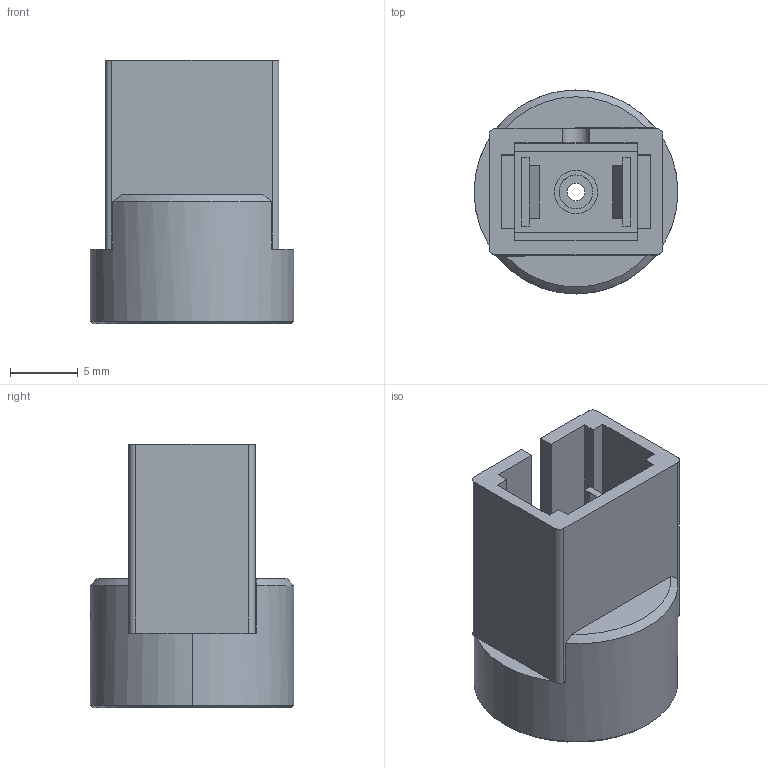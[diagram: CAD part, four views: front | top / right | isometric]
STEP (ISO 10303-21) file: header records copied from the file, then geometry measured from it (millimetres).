
FILE_DESCRIPTION (( 'STEP AP214' ), '1' );
FILE_NAME ('14177-E01.step', '2007-11-13T11:07:24', ( ' ' ), ( ' ' ), 'SwSTEP 2.0', 'SolidWorks 2007', '' );
FILE_SCHEMA (( 'AUTOMOTIVE_DESIGN' ));
Length unit declared in the file: millimetre
Products named in the file (1): 14177-E01
Bounding box: 15 x 15 x 19.4 mm (x, y, z)
Surface area: 2308.6 mm2 (no closed solid volume)
Topology: 0 solids, 8 shells, 64 faces, 217 edges, 158 vertices
Faces by surface type: plane 42, cylinder 13, cone 7, bspline 2
Entity records: 3963 total; most frequent: CARTESIAN_POINT 1418, DIRECTION 364, ORIENTED_EDGE 336, EDGE_CURVE 217, VECTOR 164, LINE 164, VERTEX_POINT 158, AXIS2_PLACEMENT_3D 100
